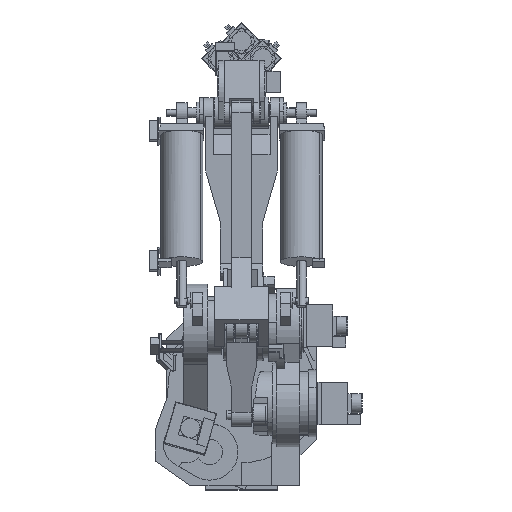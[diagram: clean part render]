
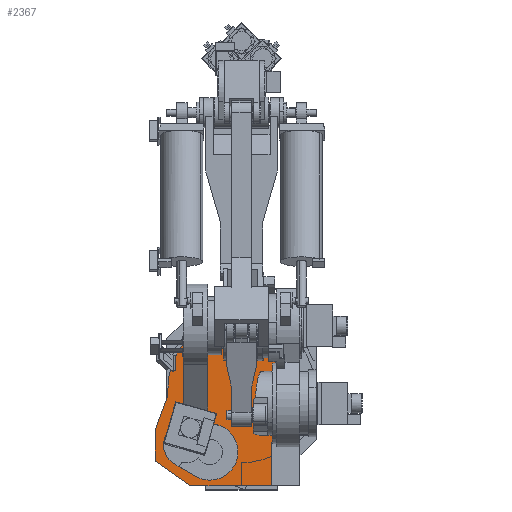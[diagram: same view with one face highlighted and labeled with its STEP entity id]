
A CAD part, top view. The second image highlights one B-rep face of the part: STEP entity #2367.
In plain terms, the highlighted planar face has unit normal (0, 0, -1).
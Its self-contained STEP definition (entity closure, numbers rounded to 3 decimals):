
#1854=CARTESIAN_POINT('Vertex',(-300.,-118.541,30.)) ;
#1857=CARTESIAN_POINT('Line Origine',(-300.,57.349,30.)) ;
#1861=CARTESIAN_POINT('Vertex',(-300.,233.238,30.)) ;
#2211=CARTESIAN_POINT('Line Origine',(-237.,-118.541,30.)) ;
#2215=CARTESIAN_POINT('Vertex',(-174.,-118.541,30.)) ;
#2230=CARTESIAN_POINT('Axis2P3D Location',(0.,0.,30.)) ;
#2235=CARTESIAN_POINT('Line Origine',(164.,-275.,30.)) ;
#2239=CARTESIAN_POINT('Vertex',(174.,-275.,30.)) ;
#2241=CARTESIAN_POINT('Vertex',(154.,-275.,30.)) ;
#2244=CARTESIAN_POINT('Line Origine',(154.,-387.5,30.)) ;
#2248=CARTESIAN_POINT('Vertex',(154.,-500.,30.)) ;
#2251=CARTESIAN_POINT('Line Origine',(77.,-500.,30.)) ;
#2255=CARTESIAN_POINT('Vertex',(0.,-500.,30.)) ;
#2258=CARTESIAN_POINT('Line Origine',(-131.128,-500.,30.)) ;
#2262=CARTESIAN_POINT('Vertex',(-262.256,-500.,30.)) ;
#2265=CARTESIAN_POINT('Line Origine',(-353.628,-436.021,30.)) ;
#2269=CARTESIAN_POINT('Vertex',(-445.,-372.041,30.)) ;
#2272=CARTESIAN_POINT('Line Origine',(-445.,-291.021,30.)) ;
#2276=CARTESIAN_POINT('Vertex',(-445.,-210.,30.)) ;
#2279=CARTESIAN_POINT('Line Origine',(-412.5,-120.707,30.)) ;
#2283=CARTESIAN_POINT('Vertex',(-380.,-31.414,30.)) ;
#2286=CARTESIAN_POINT('Line Origine',(-380.,-15.707,30.)) ;
#2290=CARTESIAN_POINT('Vertex',(-380.,0.,30.)) ;
#2293=CARTESIAN_POINT('Axis2P3D Location',(0.,0.,30.)) ;
#2298=CARTESIAN_POINT('Line Origine',(-174.,44.523,30.)) ;
#2302=CARTESIAN_POINT('Vertex',(-174.,207.587,30.)) ;
#2305=CARTESIAN_POINT('Line Origine',(0.,207.587,30.)) ;
#2309=CARTESIAN_POINT('Vertex',(174.,207.587,30.)) ;
#2312=CARTESIAN_POINT('Line Origine',(174.,-33.706,30.)) ;
#2333=CARTESIAN_POINT('Line Origine',(-292.085,-418.229,30.)) ;
#2337=CARTESIAN_POINT('Vertex',(-346.559,-386.237,30.)) ;
#2339=CARTESIAN_POINT('Vertex',(-237.612,-450.221,30.)) ;
#2342=CARTESIAN_POINT('Axis2P3D Location',(-163.928,-324.758,30.)) ;
#2346=CARTESIAN_POINT('Vertex',(-159.93,-179.312,30.)) ;
#2349=CARTESIAN_POINT('Line Origine',(-223.08,-177.577,30.)) ;
#2353=CARTESIAN_POINT('Vertex',(-286.229,-175.841,30.)) ;
#2356=CARTESIAN_POINT('Axis2P3D Location',(-289.334,-288.798,30.)) ;
#1858=DIRECTION('Vector Direction',(0.,1.,0.)) ;
#2212=DIRECTION('Vector Direction',(1.,0.,0.)) ;
#2231=DIRECTION('Axis2P3D Direction',(0.,0.,1.)) ;
#2232=DIRECTION('Axis2P3D XDirection',(1.,0.,0.)) ;
#2236=DIRECTION('Vector Direction',(-1.,0.,0.)) ;
#2245=DIRECTION('Vector Direction',(0.,1.,0.)) ;
#2252=DIRECTION('Vector Direction',(1.,0.,0.)) ;
#2259=DIRECTION('Vector Direction',(1.,0.,0.)) ;
#2266=DIRECTION('Vector Direction',(0.819,-0.574,0.)) ;
#2273=DIRECTION('Vector Direction',(0.,-1.,0.)) ;
#2280=DIRECTION('Vector Direction',(0.342,0.94,0.)) ;
#2287=DIRECTION('Vector Direction',(0.,-1.,0.)) ;
#2294=DIRECTION('Axis2P3D Direction',(0.,0.,1.)) ;
#2299=DIRECTION('Vector Direction',(0.,1.,0.)) ;
#2306=DIRECTION('Vector Direction',(1.,0.,0.)) ;
#2313=DIRECTION('Vector Direction',(0.,1.,0.)) ;
#2334=DIRECTION('Vector Direction',(0.862,-0.506,0.)) ;
#2343=DIRECTION('Axis2P3D Direction',(0.,0.,1.)) ;
#2350=DIRECTION('Vector Direction',(1.,-0.027,0.)) ;
#2357=DIRECTION('Axis2P3D Direction',(0.,0.,1.)) ;
#2233=AXIS2_PLACEMENT_3D('Plane Axis2P3D',#2230,#2231,#2232) ;
#2295=AXIS2_PLACEMENT_3D('Circle Axis2P3D',#2293,#2294,$) ;
#2344=AXIS2_PLACEMENT_3D('Circle Axis2P3D',#2342,#2343,$) ;
#2358=AXIS2_PLACEMENT_3D('Circle Axis2P3D',#2356,#2357,$) ;
#2318=ORIENTED_EDGE('',*,*,#2243,.T.) ;
#2319=ORIENTED_EDGE('',*,*,#2250,.F.) ;
#2320=ORIENTED_EDGE('',*,*,#2257,.T.) ;
#2321=ORIENTED_EDGE('',*,*,#2264,.F.) ;
#2322=ORIENTED_EDGE('',*,*,#2271,.F.) ;
#2323=ORIENTED_EDGE('',*,*,#2278,.F.) ;
#2324=ORIENTED_EDGE('',*,*,#2285,.F.) ;
#2325=ORIENTED_EDGE('',*,*,#2292,.F.) ;
#2326=ORIENTED_EDGE('',*,*,#2297,.F.) ;
#2327=ORIENTED_EDGE('',*,*,#1863,.T.) ;
#2328=ORIENTED_EDGE('',*,*,#2217,.T.) ;
#2329=ORIENTED_EDGE('',*,*,#2304,.F.) ;
#2330=ORIENTED_EDGE('',*,*,#2311,.T.) ;
#2331=ORIENTED_EDGE('',*,*,#2316,.F.) ;
#2362=ORIENTED_EDGE('',*,*,#2341,.T.) ;
#2363=ORIENTED_EDGE('',*,*,#2348,.T.) ;
#2364=ORIENTED_EDGE('',*,*,#2355,.F.) ;
#2365=ORIENTED_EDGE('',*,*,#2360,.T.) ;
#2366=FACE_BOUND('',#2361,.T.) ;
#1859=VECTOR('Line Direction',#1858,1.) ;
#2213=VECTOR('Line Direction',#2212,1.) ;
#2237=VECTOR('Line Direction',#2236,1.) ;
#2246=VECTOR('Line Direction',#2245,1.) ;
#2253=VECTOR('Line Direction',#2252,1.) ;
#2260=VECTOR('Line Direction',#2259,1.) ;
#2267=VECTOR('Line Direction',#2266,1.) ;
#2274=VECTOR('Line Direction',#2273,1.) ;
#2281=VECTOR('Line Direction',#2280,1.) ;
#2288=VECTOR('Line Direction',#2287,1.) ;
#2300=VECTOR('Line Direction',#2299,1.) ;
#2307=VECTOR('Line Direction',#2306,1.) ;
#2314=VECTOR('Line Direction',#2313,1.) ;
#2335=VECTOR('Line Direction',#2334,1.) ;
#2351=VECTOR('Line Direction',#2350,1.) ;
#2367=ADVANCED_FACE('\X2\FF7BFF70FF8CFF6AFF7D\X0\.1',(#2332,#2366),#2234,.F.) ;
#2296=CIRCLE('generated circle',#2295,380.) ;
#2345=CIRCLE('generated circle',#2344,145.5) ;
#2359=CIRCLE('generated circle',#2358,113.) ;
#1863=EDGE_CURVE('',#1862,#1855,#1860,.F.) ;
#2217=EDGE_CURVE('',#1855,#2216,#2214,.T.) ;
#2243=EDGE_CURVE('',#2240,#2242,#2238,.T.) ;
#2250=EDGE_CURVE('',#2249,#2242,#2247,.T.) ;
#2257=EDGE_CURVE('',#2249,#2256,#2254,.F.) ;
#2264=EDGE_CURVE('',#2263,#2256,#2261,.T.) ;
#2271=EDGE_CURVE('',#2270,#2263,#2268,.T.) ;
#2278=EDGE_CURVE('',#2277,#2270,#2275,.T.) ;
#2285=EDGE_CURVE('',#2284,#2277,#2282,.F.) ;
#2292=EDGE_CURVE('',#2291,#2284,#2289,.T.) ;
#2297=EDGE_CURVE('',#1862,#2291,#2296,.T.) ;
#2304=EDGE_CURVE('',#2303,#2216,#2301,.F.) ;
#2311=EDGE_CURVE('',#2303,#2310,#2308,.T.) ;
#2316=EDGE_CURVE('',#2240,#2310,#2315,.T.) ;
#2341=EDGE_CURVE('',#2338,#2340,#2336,.T.) ;
#2348=EDGE_CURVE('',#2340,#2347,#2345,.T.) ;
#2355=EDGE_CURVE('',#2354,#2347,#2352,.T.) ;
#2360=EDGE_CURVE('',#2354,#2338,#2359,.T.) ;
#2317=EDGE_LOOP('',(#2318,#2319,#2320,#2321,#2322,#2323,#2324,#2325,#2326,#2327,#2328,#2329,#2330,#2331)) ;
#2361=EDGE_LOOP('',(#2362,#2363,#2364,#2365)) ;
#2332=FACE_OUTER_BOUND('',#2317,.T.) ;
#1860=LINE('Line',#1857,#1859) ;
#2214=LINE('Line',#2211,#2213) ;
#2238=LINE('Line',#2235,#2237) ;
#2247=LINE('Line',#2244,#2246) ;
#2254=LINE('Line',#2251,#2253) ;
#2261=LINE('Line',#2258,#2260) ;
#2268=LINE('Line',#2265,#2267) ;
#2275=LINE('Line',#2272,#2274) ;
#2282=LINE('Line',#2279,#2281) ;
#2289=LINE('Line',#2286,#2288) ;
#2301=LINE('Line',#2298,#2300) ;
#2308=LINE('Line',#2305,#2307) ;
#2315=LINE('Line',#2312,#2314) ;
#2336=LINE('Line',#2333,#2335) ;
#2352=LINE('Line',#2349,#2351) ;
#2234=PLANE('',#2233) ;
#1855=VERTEX_POINT('',#1854) ;
#1862=VERTEX_POINT('',#1861) ;
#2216=VERTEX_POINT('',#2215) ;
#2240=VERTEX_POINT('',#2239) ;
#2242=VERTEX_POINT('',#2241) ;
#2249=VERTEX_POINT('',#2248) ;
#2256=VERTEX_POINT('',#2255) ;
#2263=VERTEX_POINT('',#2262) ;
#2270=VERTEX_POINT('',#2269) ;
#2277=VERTEX_POINT('',#2276) ;
#2284=VERTEX_POINT('',#2283) ;
#2291=VERTEX_POINT('',#2290) ;
#2303=VERTEX_POINT('',#2302) ;
#2310=VERTEX_POINT('',#2309) ;
#2338=VERTEX_POINT('',#2337) ;
#2340=VERTEX_POINT('',#2339) ;
#2347=VERTEX_POINT('',#2346) ;
#2354=VERTEX_POINT('',#2353) ;
